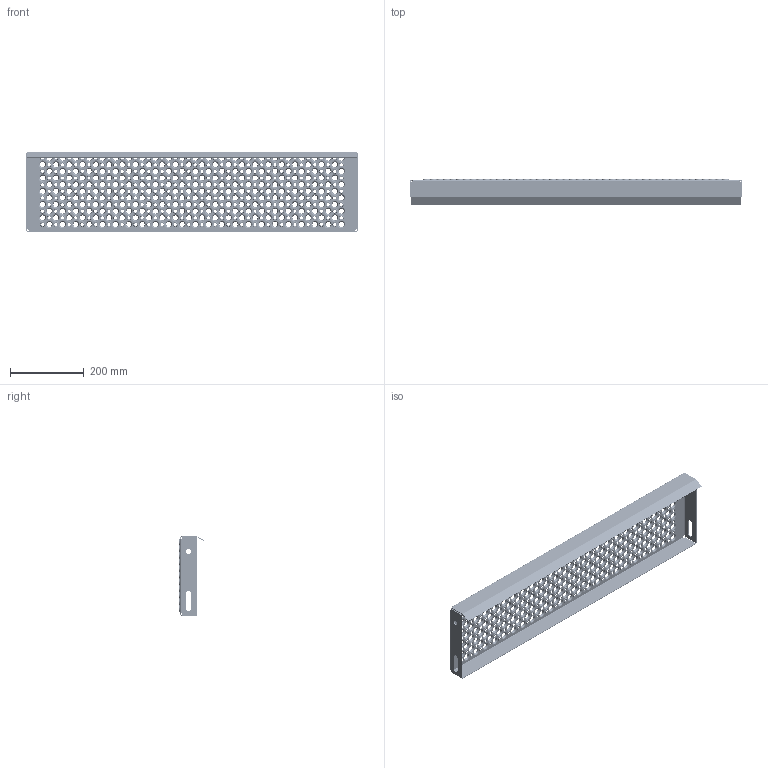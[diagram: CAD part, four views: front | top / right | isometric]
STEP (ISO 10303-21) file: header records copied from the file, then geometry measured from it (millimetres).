
FILE_DESCRIPTION (( 'STEP AP203' ), '1' );
FILE_NAME ('80242109G_Lejdertrin_215x900x45_mm_.STEP', '2015-01-14T06:10:05', ( '' ), ( '' ), 'SwSTEP 2.0', 'SolidWorks 2013', '' );
FILE_SCHEMA (( 'CONFIG_CONTROL_DESIGN' ));
Products named in the file (1): 80242109G_Lejdertrin_215x900x45_mm_
Bounding box: 900 x 71.67 x 215 mm (x, y, z)
Volume: 580957.7 mm3; surface area: 623630.5 mm2
Topology: 1 solids, 1 shells, 2606 faces, 7266 edges, 4662 vertices
Faces by surface type: cone 1518, torus 1012, cylinder 36, plane 32, bspline 8
Full cylindrical faces by diameter (mm): 14 x2
Entity records: 60341 total; most frequent: DIRECTION 11474, CARTESIAN_POINT 9467, ORIENTED_EDGE 6432, EDGE_LOOP 6158, AXIS2_PLACEMENT_3D 5691, FACE_OUTER_BOUND 3620, EDGE_CURVE 3216, VERTEX_POINT 3144
